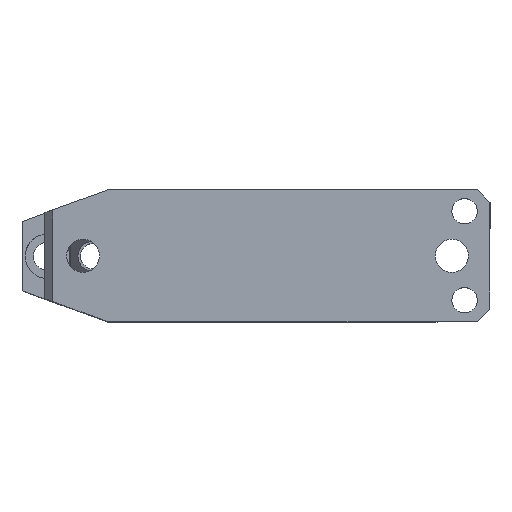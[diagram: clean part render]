
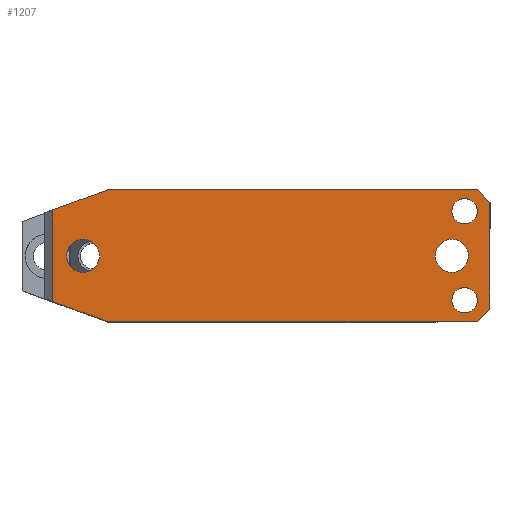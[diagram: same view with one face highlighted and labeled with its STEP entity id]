
A CAD part, top view. The second image highlights one B-rep face of the part: STEP entity #1207.
In plain terms, the highlighted planar face has unit normal (0, 0, 1).
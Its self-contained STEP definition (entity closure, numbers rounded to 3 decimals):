
#101 = DIRECTION ( 'NONE',  ( 0.94, 0.342, 0. ) ) ;
#103 = CARTESIAN_POINT ( 'NONE',  ( 174., -17.5, 125. ) ) ;
#114 = AXIS2_PLACEMENT_3D ( 'NONE', #103, #6299, #1009 ) ;
#212 = CIRCLE ( 'NONE', #10092, 6.5 ) ;
#290 = CARTESIAN_POINT ( 'NONE',  ( 175.5, 0., 125. ) ) ;
#402 = DIRECTION ( 'NONE',  ( -1., 0., 0. ) ) ;
#530 = LINE ( 'NONE', #10352, #4975 ) ;
#606 = DIRECTION ( 'NONE',  ( -0.94, 0.342, 0. ) ) ;
#673 = DIRECTION ( 'NONE',  ( 1., 0., 0. ) ) ;
#683 = CARTESIAN_POINT ( 'NONE',  ( 184., 21., 125. ) ) ;
#758 = CARTESIAN_POINT ( 'NONE',  ( 30.5, 0., 125. ) ) ;
#848 = CARTESIAN_POINT ( 'NONE',  ( 24., 0., 125. ) ) ;
#893 = VERTEX_POINT ( 'NONE', #9563 ) ;
#928 = LINE ( 'NONE', #9395, #10031 ) ;
#1009 = DIRECTION ( 'NONE',  ( -1., 0., 0. ) ) ;
#1119 = EDGE_CURVE ( 'NONE', #9841, #7938, #7223, .T. ) ;
#1139 = VERTEX_POINT ( 'NONE', #6479 ) ;
#1207 = ADVANCED_FACE ( 'NONE', ( #1989, #3797, #8456, #1704, #1435 ), #2180, .F. ) ;
#1422 = VECTOR ( 'NONE', #10717, 1000. ) ;
#1435 = FACE_OUTER_BOUND ( 'NONE', #9028, .T. ) ;
#1444 = ORIENTED_EDGE ( 'NONE', *, *, #2374, .F. ) ;
#1548 = CARTESIAN_POINT ( 'NONE',  ( 9., 26., 125. ) ) ;
#1602 = DIRECTION ( 'NONE',  ( 0., 0., -1. ) ) ;
#1608 = CARTESIAN_POINT ( 'NONE',  ( 169., 17.5, 125. ) ) ;
#1614 = EDGE_LOOP ( 'NONE', ( #6694, #3348 ) ) ;
#1620 = EDGE_CURVE ( 'NONE', #6012, #7938, #10775, .T. ) ;
#1704 = FACE_BOUND ( 'NONE', #7548, .T. ) ;
#1709 = EDGE_CURVE ( 'NONE', #7645, #3511, #5573, .T. ) ;
#1757 = DIRECTION ( 'NONE',  ( -1., 0., 0. ) ) ;
#1786 = CIRCLE ( 'NONE', #114, 5. ) ;
#1802 = CIRCLE ( 'NONE', #8655, 6.5 ) ;
#1851 = DIRECTION ( 'NONE',  ( 0., 0., -1. ) ) ;
#1989 = FACE_BOUND ( 'NONE', #4253, .T. ) ;
#2180 = PLANE ( 'NONE',  #5738 ) ;
#2195 = ORIENTED_EDGE ( 'NONE', *, *, #1709, .F. ) ;
#2374 = EDGE_CURVE ( 'NONE', #1139, #7645, #8282, .T. ) ;
#2450 = EDGE_CURVE ( 'NONE', #10005, #2602, #3622, .T. ) ;
#2487 = DIRECTION ( 'NONE',  ( 0., -1., 0. ) ) ;
#2567 = DIRECTION ( 'NONE',  ( 0., 0., -1. ) ) ;
#2602 = VERTEX_POINT ( 'NONE', #10617 ) ;
#2615 = CIRCLE ( 'NONE', #3686, 6.5 ) ;
#3132 = CIRCLE ( 'NONE', #4385, 5. ) ;
#3210 = AXIS2_PLACEMENT_3D ( 'NONE', #8697, #3463, #9568 ) ;
#3290 = EDGE_CURVE ( 'NONE', #6445, #3840, #1802, .T. ) ;
#3348 = ORIENTED_EDGE ( 'NONE', *, *, #10315, .T. ) ;
#3463 = DIRECTION ( 'NONE',  ( 0., 0., -1. ) ) ;
#3511 = VERTEX_POINT ( 'NONE', #683 ) ;
#3563 = VERTEX_POINT ( 'NONE', #758 ) ;
#3622 = CIRCLE ( 'NONE', #9526, 5. ) ;
#3686 = AXIS2_PLACEMENT_3D ( 'NONE', #7133, #1851, #8003 ) ;
#3703 = CARTESIAN_POINT ( 'NONE',  ( 179., -26., 125. ) ) ;
#3797 = FACE_BOUND ( 'NONE', #1614, .T. ) ;
#3800 = ORIENTED_EDGE ( 'NONE', *, *, #7679, .F. ) ;
#3821 = VECTOR ( 'NONE', #101, 1000. ) ;
#3840 = VERTEX_POINT ( 'NONE', #290 ) ;
#3928 = VERTEX_POINT ( 'NONE', #4183 ) ;
#3955 = CARTESIAN_POINT ( 'NONE',  ( 9., 26., 125. ) ) ;
#3960 = EDGE_CURVE ( 'NONE', #893, #3928, #4269, .T. ) ;
#3976 = DIRECTION ( 'NONE',  ( 0., 0., -1. ) ) ;
#4039 = VERTEX_POINT ( 'NONE', #10468 ) ;
#4155 = EDGE_CURVE ( 'NONE', #3563, #10398, #2615, .T. ) ;
#4183 = CARTESIAN_POINT ( 'NONE',  ( 12., -17.993, 125. ) ) ;
#4209 = DIRECTION ( 'NONE',  ( 0., -1., 0. ) ) ;
#4253 = EDGE_LOOP ( 'NONE', ( #8991, #5081 ) ) ;
#4269 = LINE ( 'NONE', #7750, #4550 ) ;
#4385 = AXIS2_PLACEMENT_3D ( 'NONE', #9204, #3976, #10114 ) ;
#4550 = VECTOR ( 'NONE', #2487, 1000. ) ;
#4808 = CARTESIAN_POINT ( 'NONE',  ( 169., 0., 125. ) ) ;
#4902 = EDGE_LOOP ( 'NONE', ( #7297, #6044 ) ) ;
#4975 = VECTOR ( 'NONE', #4209, 1000. ) ;
#5022 = ORIENTED_EDGE ( 'NONE', *, *, #9298, .F. ) ;
#5081 = ORIENTED_EDGE ( 'NONE', *, *, #7087, .T. ) ;
#5088 = EDGE_CURVE ( 'NONE', #3840, #6445, #212, .T. ) ;
#5436 = CARTESIAN_POINT ( 'NONE',  ( 9., 16.901, 125. ) ) ;
#5573 = LINE ( 'NONE', #7306, #10227 ) ;
#5609 = DIRECTION ( 'NONE',  ( 1., 0., 0. ) ) ;
#5665 = CIRCLE ( 'NONE', #10917, 6.5 ) ;
#5704 = DIRECTION ( 'NONE',  ( -1., 0., 0. ) ) ;
#5729 = DIRECTION ( 'NONE',  ( 0., 0., -1. ) ) ;
#5738 = AXIS2_PLACEMENT_3D ( 'NONE', #3955, #5729, #402 ) ;
#6012 = VERTEX_POINT ( 'NONE', #9965 ) ;
#6044 = ORIENTED_EDGE ( 'NONE', *, *, #4155, .T. ) ;
#6299 = DIRECTION ( 'NONE',  ( 0., 0., -1. ) ) ;
#6445 = VERTEX_POINT ( 'NONE', #8873 ) ;
#6479 = CARTESIAN_POINT ( 'NONE',  ( 34., 26., 125. ) ) ;
#6486 = ORIENTED_EDGE ( 'NONE', *, *, #3960, .T. ) ;
#6694 = ORIENTED_EDGE ( 'NONE', *, *, #2450, .T. ) ;
#6873 = CARTESIAN_POINT ( 'NONE',  ( 169., 0., 125. ) ) ;
#7039 = DIRECTION ( 'NONE',  ( 0., 0., -1. ) ) ;
#7087 = EDGE_CURVE ( 'NONE', #8834, #4039, #1786, .T. ) ;
#7121 = CARTESIAN_POINT ( 'NONE',  ( 179., -26., 125. ) ) ;
#7133 = CARTESIAN_POINT ( 'NONE',  ( 24., 0., 125. ) ) ;
#7150 = CIRCLE ( 'NONE', #3210, 5. ) ;
#7223 = LINE ( 'NONE', #9963, #9265 ) ;
#7297 = ORIENTED_EDGE ( 'NONE', *, *, #7834, .T. ) ;
#7306 = CARTESIAN_POINT ( 'NONE',  ( 179., 26., 125. ) ) ;
#7548 = EDGE_LOOP ( 'NONE', ( #8449, #8111 ) ) ;
#7645 = VERTEX_POINT ( 'NONE', #8538 ) ;
#7679 = EDGE_CURVE ( 'NONE', #3511, #6012, #530, .T. ) ;
#7750 = CARTESIAN_POINT ( 'NONE',  ( 12., 26., 125. ) ) ;
#7767 = DIRECTION ( 'NONE',  ( -1., 0., 0. ) ) ;
#7821 = CARTESIAN_POINT ( 'NONE',  ( 174., 17.5, 125. ) ) ;
#7834 = EDGE_CURVE ( 'NONE', #10398, #3563, #5665, .T. ) ;
#7938 = VERTEX_POINT ( 'NONE', #7121 ) ;
#7991 = CARTESIAN_POINT ( 'NONE',  ( 179., -17.5, 125. ) ) ;
#8003 = DIRECTION ( 'NONE',  ( -1., 0., 0. ) ) ;
#8111 = ORIENTED_EDGE ( 'NONE', *, *, #5088, .T. ) ;
#8188 = DIRECTION ( 'NONE',  ( 0.707, -0.707, 0. ) ) ;
#8193 = LINE ( 'NONE', #5436, #3821 ) ;
#8269 = EDGE_CURVE ( 'NONE', #9841, #3928, #928, .T. ) ;
#8282 = LINE ( 'NONE', #1548, #10357 ) ;
#8389 = EDGE_CURVE ( 'NONE', #4039, #8834, #7150, .T. ) ;
#8449 = ORIENTED_EDGE ( 'NONE', *, *, #3290, .T. ) ;
#8456 = FACE_BOUND ( 'NONE', #4902, .T. ) ;
#8487 = ORIENTED_EDGE ( 'NONE', *, *, #1119, .T. ) ;
#8538 = CARTESIAN_POINT ( 'NONE',  ( 179., 26., 125. ) ) ;
#8655 = AXIS2_PLACEMENT_3D ( 'NONE', #4808, #10956, #5704 ) ;
#8688 = DIRECTION ( 'NONE',  ( -1., 0., 0. ) ) ;
#8697 = CARTESIAN_POINT ( 'NONE',  ( 174., -17.5, 125. ) ) ;
#8823 = ORIENTED_EDGE ( 'NONE', *, *, #8269, .F. ) ;
#8834 = VERTEX_POINT ( 'NONE', #7991 ) ;
#8873 = CARTESIAN_POINT ( 'NONE',  ( 162.5, 0., 125. ) ) ;
#8991 = ORIENTED_EDGE ( 'NONE', *, *, #8389, .T. ) ;
#9028 = EDGE_LOOP ( 'NONE', ( #5022, #6486, #8823, #8487, #9790, #3800, #2195, #1444 ) ) ;
#9204 = CARTESIAN_POINT ( 'NONE',  ( 174., 17.5, 125. ) ) ;
#9265 = VECTOR ( 'NONE', #5609, 1000. ) ;
#9298 = EDGE_CURVE ( 'NONE', #893, #1139, #8193, .T. ) ;
#9320 = CARTESIAN_POINT ( 'NONE',  ( 17.5, 0., 125. ) ) ;
#9395 = CARTESIAN_POINT ( 'NONE',  ( 9., -16.901, 125. ) ) ;
#9526 = AXIS2_PLACEMENT_3D ( 'NONE', #7821, #2567, #8688 ) ;
#9563 = CARTESIAN_POINT ( 'NONE',  ( 12., 17.993, 125. ) ) ;
#9568 = DIRECTION ( 'NONE',  ( -1., 0., 0. ) ) ;
#9790 = ORIENTED_EDGE ( 'NONE', *, *, #1620, .F. ) ;
#9841 = VERTEX_POINT ( 'NONE', #11436 ) ;
#9963 = CARTESIAN_POINT ( 'NONE',  ( 9., -26., 125. ) ) ;
#9965 = CARTESIAN_POINT ( 'NONE',  ( 184., -21., 125. ) ) ;
#10005 = VERTEX_POINT ( 'NONE', #1608 ) ;
#10031 = VECTOR ( 'NONE', #606, 1000. ) ;
#10092 = AXIS2_PLACEMENT_3D ( 'NONE', #6873, #1602, #7767 ) ;
#10114 = DIRECTION ( 'NONE',  ( -1., 0., 0. ) ) ;
#10227 = VECTOR ( 'NONE', #8188, 1000. ) ;
#10315 = EDGE_CURVE ( 'NONE', #2602, #10005, #3132, .T. ) ;
#10352 = CARTESIAN_POINT ( 'NONE',  ( 184., 26., 125. ) ) ;
#10357 = VECTOR ( 'NONE', #673, 1000. ) ;
#10398 = VERTEX_POINT ( 'NONE', #9320 ) ;
#10468 = CARTESIAN_POINT ( 'NONE',  ( 169., -17.5, 125. ) ) ;
#10617 = CARTESIAN_POINT ( 'NONE',  ( 179., 17.5, 125. ) ) ;
#10717 = DIRECTION ( 'NONE',  ( -0.707, -0.707, 0. ) ) ;
#10775 = LINE ( 'NONE', #3703, #1422 ) ;
#10917 = AXIS2_PLACEMENT_3D ( 'NONE', #848, #7039, #1757 ) ;
#10956 = DIRECTION ( 'NONE',  ( 0., 0., -1. ) ) ;
#11436 = CARTESIAN_POINT ( 'NONE',  ( 34., -26., 125. ) ) ;
